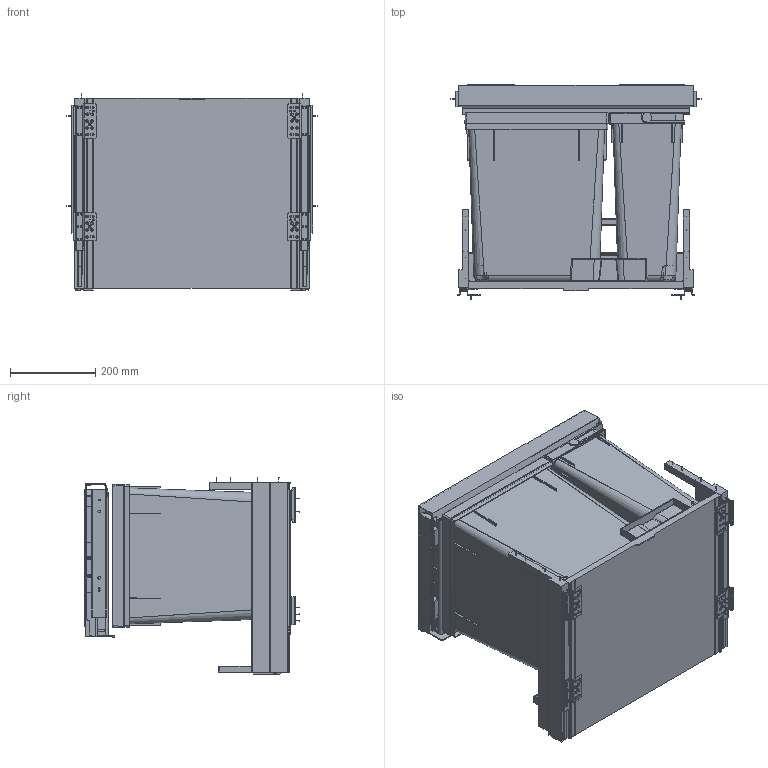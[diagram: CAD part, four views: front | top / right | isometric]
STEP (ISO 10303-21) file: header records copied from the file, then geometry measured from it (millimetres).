
FILE_DESCRIPTION((''),'2;1');
FILE_NAME('X60_L7_PREMIUM_PRO_LIGHT','2024-05-22T16:33:33',('fba'),(''),'CREO PARAMETRIC BY PTC INC, 2022024','CREO PARAMETRIC BY PTC INC, 2022024','');
FILE_SCHEMA(('AUTOMOTIVE_DESIGN { 1 0 10303 214 1 1 1 1 }'));
Products named in the file (15): KOMPLETTAUSZUG_R60_LIGHT; 12244_LIGHT; 12258_LIGHT; 12259_LIGHT; 12247_LIGHT; 12274_LIGHT; 12278_LIGHT; 12282_LIGHT; 12483_LIGHT; 12283_LIGHT; 12309_LIGHT; 12312_LIGHT; 12452_LIGHT; 12313_LIGHT; X60_L7_PREMIUM_PRO_LIGHT
Assembly tree (15 placements, depth 3):
  X60_L7_PREMIUM_PRO_LIGHT
    KOMPLETTAUSZUG_R60_LIGHT
    12244_LIGHT
    12258_LIGHT
    12259_LIGHT
    12247_LIGHT
    12274_LIGHT
    12278_LIGHT
    12282_LIGHT
    12483_LIGHT
    12283_LIGHT  x2
    12452_LIGHT
      12309_LIGHT
      12312_LIGHT
    12313_LIGHT
Bounding box: 588 x 505 x 461.2 mm (x, y, z)
Volume: 9973874.6 mm3; surface area: 4515436.5 mm2
Topology: 30 solids, 30 shells, 3389 faces, 9012 edges, 5799 vertices
Faces by surface type: plane 1738, cylinder 941, bspline 320, torus 128, extrusion 104, cone 100, sphere 58
Entity records: 137595 total; most frequent: CARTESIAN_POINT 44516, ORIENTED_EDGE 17692, DIRECTION 15690, EDGE_CURVE 8846, VERTEX_POINT 5703, VECTOR 5568, LINE 5464, AXIS2_PLACEMENT_3D 5061
